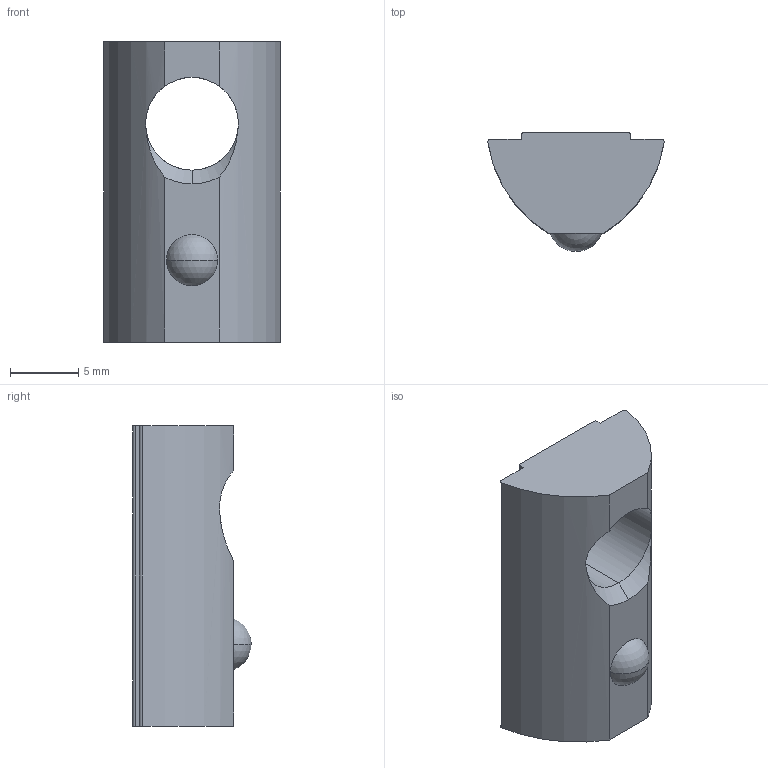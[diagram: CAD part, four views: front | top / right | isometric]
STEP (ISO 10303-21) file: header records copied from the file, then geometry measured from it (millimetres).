
FILE_DESCRIPTION (( 'STEP AP203' ), '1' );
FILE_NAME ('LIMA-LHNR8-84040.STEP', '2018-03-15T12:19:32', ( '' ), ( '' ), 'SwSTEP 2.0', 'SolidWorks 2013', '' );
FILE_SCHEMA (( 'CONFIG_CONTROL_DESIGN' ));
Length unit declared in the file: millimetre
Products named in the file (1): LIMA-LHNR8-84040
Bounding box: 12.94 x 8.7 x 22 mm (x, y, z)
Volume: 1344.9 mm3; surface area: 977.6 mm2
Topology: 1 solids, 1 shells, 25 faces, 70 edges, 46 vertices
Faces by surface type: plane 10, cylinder 9, cone 4, sphere 2
Entity records: 951 total; most frequent: CARTESIAN_POINT 206, DIRECTION 146, ORIENTED_EDGE 140, EDGE_CURVE 70, AXIS2_PLACEMENT_3D 56, VERTEX_POINT 46, VECTOR 34, LINE 34
